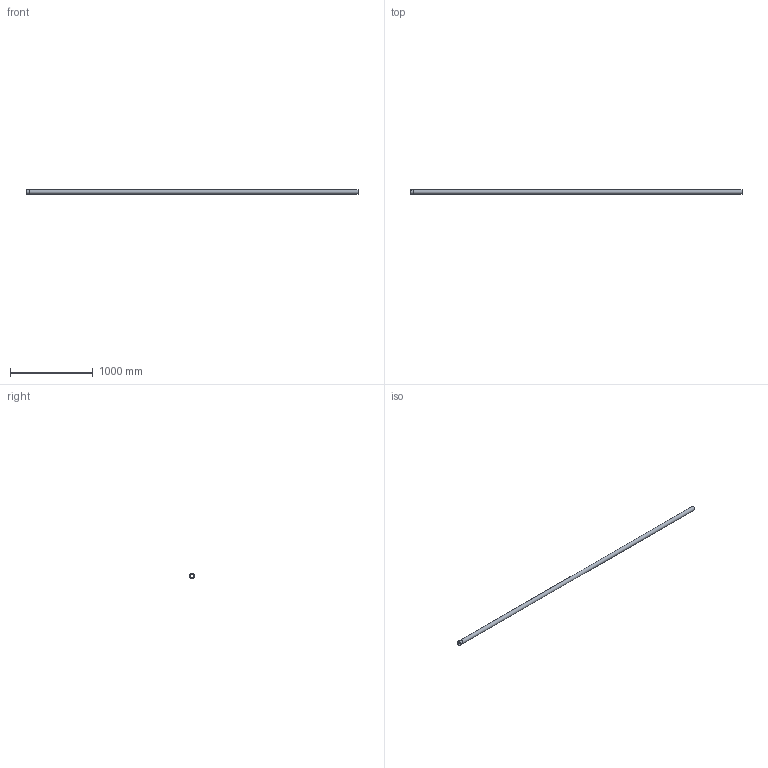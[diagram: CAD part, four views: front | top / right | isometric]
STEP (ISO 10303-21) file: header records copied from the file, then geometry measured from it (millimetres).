
FILE_DESCRIPTION((''),'2;1');
FILE_NAME('I:\WATTS\3D_CAD\3D_CAD_Models\Blucher_Drains\P_StraightPipe\WebsiteFiles\3D\STEP\P2-13.1-316.stp','2009-12-02T13:30:33',('menesek'),(''),'Autodesk Inventor 2010','Autodesk Inventor 2010','');
FILE_SCHEMA(('AUTOMOTIVE_DESIGN { 1 0 10303 214 1 1 1 1 }'));
Length unit declared in the file: inch
Products named in the file (1): P2-13.1-316
Bounding box: 4000 x 60.96 x 60.96 mm (x, y, z)
Volume: 634408.9 mm3; surface area: 1234647.1 mm2
Topology: 1 solids, 1 shells, 109 faces, 285 edges, 190 vertices
Faces by surface type: plane 59, bspline 34, cylinder 16
Full cylindrical faces by diameter (mm): 48.006 x1, 50.038 x1, 50.8 x2, 60.96 x1
Entity records: 13765 total; most frequent: CARTESIAN_POINT 11387, ORIENTED_EDGE 548, DIRECTION 356, EDGE_CURVE 274, VERTEX_POINT 186, EDGE_LOOP 128, AXIS2_PLACEMENT_3D 120, VECTOR 116
